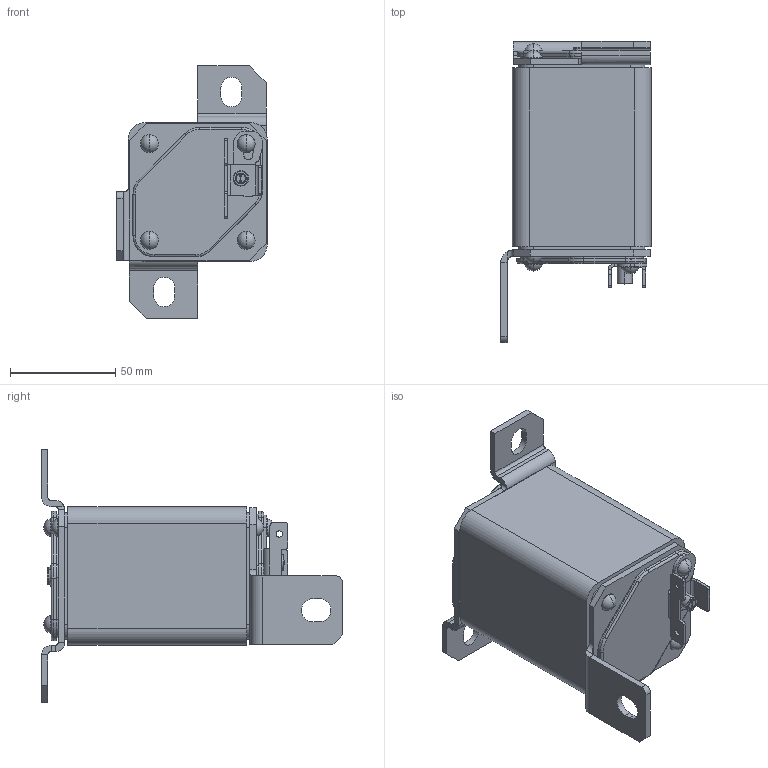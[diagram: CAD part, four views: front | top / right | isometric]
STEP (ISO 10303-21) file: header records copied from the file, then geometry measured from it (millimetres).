
FILE_DESCRIPTION (( 'STEP AP214' ), '1' );
FILE_NAME ('砎槼隰譇膻蠈錪 珫57-37682-迕-XXXA-XXXX-忡曖.STEP', '2023-05-11T12:15:13', ( '' ), ( '' ), 'SwSTEP 2.0', 'SolidWorks 2018', '' );
FILE_SCHEMA (( 'AUTOMOTIVE_DESIGN' ));
Length unit declared in the file: millimetre
Products named in the file (1): 砎槼隰譇膻蠈錪 珫57-37682-迕-XXXA-XXXX-忡曖
Bounding box: 71.5 x 143 x 120 mm (x, y, z)
Volume: 423119 mm3; surface area: 55665.3 mm2
Topology: 1 solids, 14 shells, 635 faces, 1527 edges, 940 vertices
Faces by surface type: plane 310, cylinder 235, torus 50, cone 24, sphere 16
Entity records: 26142 total; most frequent: CARTESIAN_POINT 3905, DIRECTION 3363, ORIENTED_EDGE 3054, EDGE_CURVE 1527, AXIS2_PLACEMENT_3D 1262, VERTEX_POINT 940, VECTOR 839, LINE 839
